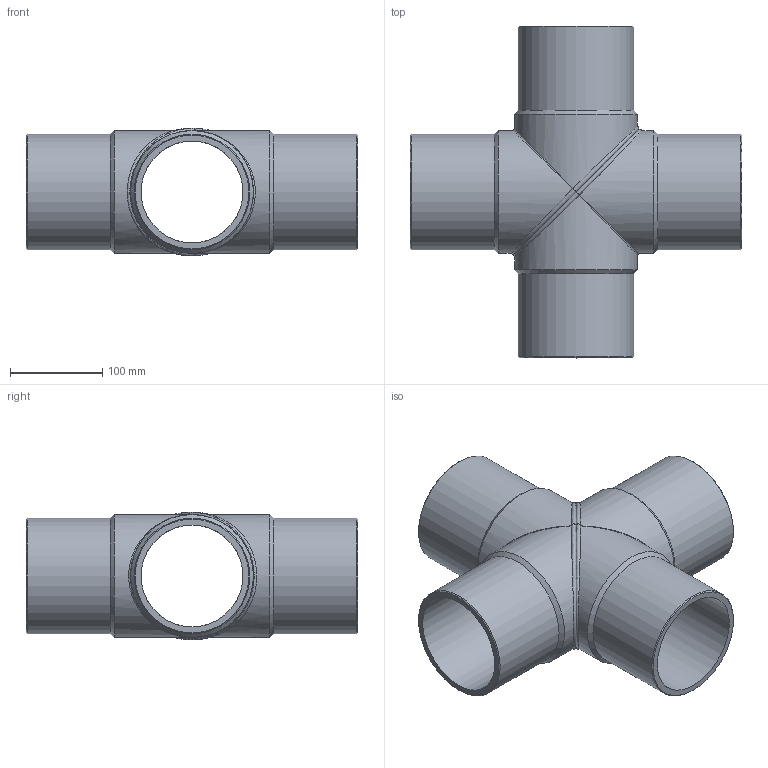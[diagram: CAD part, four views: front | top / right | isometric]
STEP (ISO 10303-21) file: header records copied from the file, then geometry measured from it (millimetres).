
FILE_DESCRIPTION(/* description */ ('Unknown'),/* implementation_level */ '2;1');
FILE_NAME(/* name */ 'CRP125B',/* time_stamp */ '2022-07-08T10:47:22+02:00',/* author */ ('Unknown'),/* organization */ ('Unknown'),/* preprocessor_version */ 'ST-DEVELOPER v18.102',/* originating_system */ 'Solid Edge',/* authorisation */ 'Unknown');
FILE_SCHEMA (('AUTOMOTIVE_DESIGN {1 0 10303 214 3 1 1}'));
Length unit declared in the file: millimetre
Products named in the file (3): CRP125B; CRP125B_mir
Assembly tree (2 placements, depth 2):
  CRP125B
    CRP125B
    CRP125B_mir
Bounding box: 359 x 359 x 137.99 mm (x, y, z)
Volume: 1850827.4 mm3; surface area: 446025.1 mm2
Topology: 2 solids, 2 shells, 32 faces, 132 edges, 102 vertices
Faces by surface type: cylinder 12, cone 8, plane 6, bspline 6
Full cylindrical faces by diameter (mm): 110.2 x4, 125 x4, 133 x4
Entity records: 3261 total; most frequent: CARTESIAN_POINT 2323, ORIENTED_EDGE 204, DIRECTION 126, EDGE_CURVE 102, VERTEX_POINT 92, B_SPLINE_CURVE_WITH_KNOTS 68, AXIS2_PLACEMENT_3D 63, EDGE_LOOP 58
